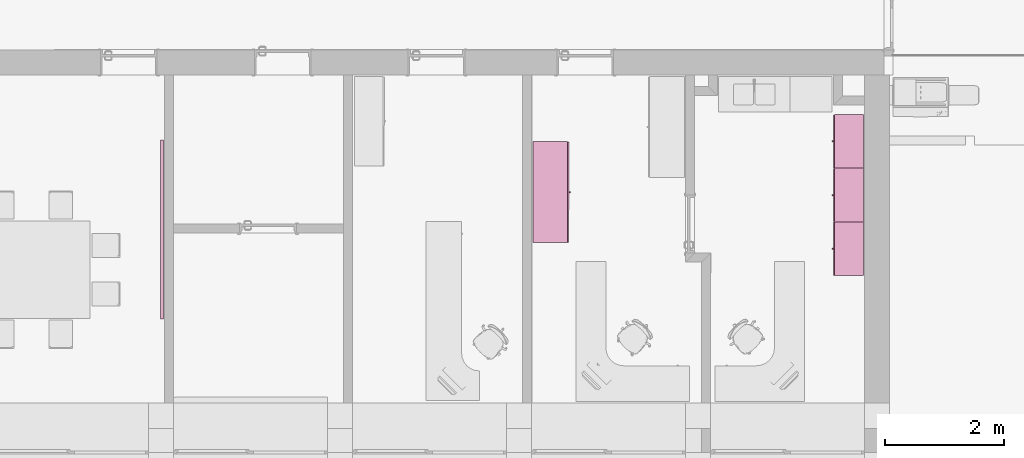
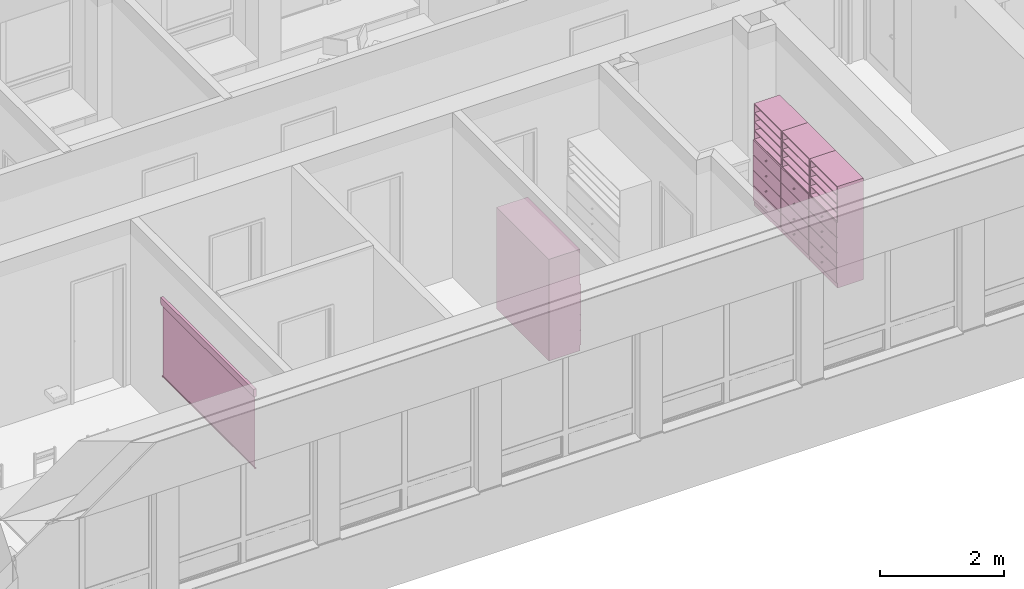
# One storey, part 133 of 194: 5 furnishings.
"""IFC2X3 building model written with IfcOpenShell, lengths in millimetres."""

from ifc_helpers import new_model, entity, si_unit, converted_unit, derived_unit, money_unit, direction, frame, origin_with_axes, place, context, subcontext, project, spatial, open_shell, faceted_brep, surface_model, source, transform, mapped, type_object, element, save


model = new_model("IFC2X3")

# Units and contexts
model_context = context("Model", 3, precision=1e-05, world=origin_with_axes(), true_north=direction((0.0, 1.0)))
body_context = subcontext(model_context, "Body", "Model", "MODEL_VIEW")
ifc_project = project(units=[si_unit("LENGTHUNIT", "METRE", prefix="MILLI"), si_unit("AREAUNIT", "SQUARE_METRE"), si_unit("VOLUMEUNIT", "CUBIC_METRE"), converted_unit("PLANEANGLEUNIT", "DEGREE", entity("IfcPlaneAngleMeasure", 0.0174532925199), si_unit("PLANEANGLEUNIT", "RADIAN"), dimensions=[0, 0, 0, 0, 0, 0, 0]), si_unit("SOLIDANGLEUNIT", "STERADIAN"), money_unit("EUR"), converted_unit("TIMEUNIT", "Year", entity("IfcTimeMeasure", 31556926.0), si_unit("TIMEUNIT", "SECOND"), dimensions=[0, 0, 1, 0, 0, 0, 0]), si_unit("MASSUNIT", "GRAM", prefix="KILO"), si_unit("THERMODYNAMICTEMPERATUREUNIT", "DEGREE_CELSIUS"), si_unit("LUMINOUSINTENSITYUNIT", "LUMEN"), si_unit("ENERGYUNIT", "JOULE", prefix="MEGA"), derived_unit("THERMALCONDUCTANCEUNIT", [(si_unit("POWERUNIT", "WATT"), 1), (si_unit("LENGTHUNIT", "METRE"), -1), (si_unit("THERMODYNAMICTEMPERATUREUNIT", "KELVIN"), -1)]), derived_unit("SPECIFICHEATCAPACITYUNIT", [(si_unit("ENERGYUNIT", "JOULE"), 1), (si_unit("MASSUNIT", "GRAM", prefix="KILO"), -1), (si_unit("THERMODYNAMICTEMPERATUREUNIT", "KELVIN"), -1)]), derived_unit("MASSDENSITYUNIT", [(si_unit("MASSUNIT", "GRAM", prefix="KILO"), 1), (si_unit("VOLUMEUNIT", "CUBIC_METRE"), -1)])], contexts=[model_context])

# Site, building, storey
site_placement = place(None, origin_with_axes())
site = spatial("IfcSite", under=ifc_project, at=site_placement, Name="Site", CompositionType="ELEMENT")
building_placement = place(site_placement, origin_with_axes())
building = spatial("IfcBuilding", under=site, at=building_placement, Name="Building", CompositionType="ELEMENT")
storey_placement = place(building_placement, frame((0.0, 0.0, 3000.0), z_axis=(0.0, 0.0, 1.0), x_axis=(1.0, 0.0, 0.0)))
storey = spatial("IfcBuildingStorey", under=building, at=storey_placement, Name="2 KORRUS", CompositionType="ELEMENT", Elevation=3000.0)

# Furnishings
furnishing_element_type_1 = type_object("IfcFurnishingElementType", Name="Projector Screen 22")
shared_shape_1 = source(origin_with_axes(), body_context, "Body", "SurfaceModel", [
    faceted_brep([(1500.0, 12.5, 1450.0), (1500.0, -31.25, 1450.0), (-1500.0, -31.25, 1450.0), (-1500.0, 12.5, 1450.0), (1500.0, 12.5, 1600.0), (1500.0, -37.5, 1600.0), (1500.0, -37.5, 1475.0), (1500.0, -31.25, 1475.0), (-1500.0, -31.25, 1475.0), (-1500.0, -37.5, 1475.0), (-1500.0, -37.5, 1600.0), (-1500.0, 12.5, 1600.0)], [[[0, 1, 2, 3]], [[0, 4, 5, 6, 7, 1]], [[1, 7, 8, 2]], [[3, 2, 8, 9, 10, 11]], [[4, 0, 3, 11]], [[5, 4, 11, 10]], [[6, 5, 10, 9]], [[7, 6, 9, 8]]]),
    faceted_brep([(-1480.0, 5.17766952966, 25.0), (-1480.0, 12.5, 32.3223304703), (1480.0, 12.5, 32.3223304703), (1480.0, 5.17766952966, 25.0), (-1480.0, -5.17766952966, 25.0), (-1480.0, -12.5, 32.3223304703), (-1480.0, -12.5, 42.6776695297), (-1480.0, -5.17766952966, 50.0), (-1480.0, 5.17766952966, 50.0), (-1480.0, 12.5, 42.6776695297), (1480.0, 12.5, 42.6776695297), (1480.0, 5.17766952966, 50.0), (1480.0, -5.17766952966, 50.0), (1480.0, -12.5, 42.6776695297), (1480.0, -12.5, 32.3223304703), (1480.0, -5.17766952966, 25.0)], [[[0, 1, 2, 3]], [[0, 4, 5, 6, 7, 8, 9, 1]], [[1, 9, 10, 2]], [[3, 2, 10, 11, 12, 13, 14, 15]], [[4, 0, 3, 15]], [[5, 4, 15, 14]], [[6, 5, 14, 13]], [[7, 6, 13, 12]], [[8, 7, 12, 11]], [[9, 8, 11, 10]]]),
    faceted_brep([(-1500.0, 6.00609665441, 23.0), (-1500.0, 14.5, 31.4939033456), (-1480.0, 14.5, 31.4939033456), (-1480.0, 6.00609665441, 23.0), (-1500.0, -6.00609665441, 23.0), (-1500.0, -14.5, 31.4939033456), (-1500.0, -14.5, 43.5060966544), (-1500.0, -6.00609665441, 52.0), (-1500.0, 6.00609665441, 52.0), (-1500.0, 14.5, 43.5060966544), (-1480.0, 14.5, 43.5060966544), (-1480.0, 6.00609665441, 52.0), (-1480.0, -6.00609665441, 52.0), (-1480.0, -14.5, 43.5060966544), (-1480.0, -14.5, 31.4939033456), (-1480.0, -6.00609665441, 23.0)], [[[0, 1, 2, 3]], [[0, 4, 5, 6, 7, 8, 9, 1]], [[1, 9, 10, 2]], [[3, 2, 10, 11, 12, 13, 14, 15]], [[4, 0, 3, 15]], [[5, 4, 15, 14]], [[6, 5, 14, 13]], [[7, 6, 13, 12]], [[8, 7, 12, 11]], [[9, 8, 11, 10]]]),
    faceted_brep([(1480.0, 6.00609665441, 23.0), (1480.0, 14.5, 31.4939033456), (1500.0, 14.5, 31.4939033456), (1500.0, 6.00609665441, 23.0), (1480.0, -6.00609665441, 23.0), (1480.0, -14.5, 31.4939033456), (1480.0, -14.5, 43.5060966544), (1480.0, -6.00609665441, 52.0), (1480.0, 6.00609665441, 52.0), (1480.0, 14.5, 43.5060966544), (1500.0, 14.5, 43.5060966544), (1500.0, 6.00609665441, 52.0), (1500.0, -6.00609665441, 52.0), (1500.0, -14.5, 43.5060966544), (1500.0, -14.5, 31.4939033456), (1500.0, -6.00609665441, 23.0)], [[[0, 1, 2, 3]], [[0, 4, 5, 6, 7, 8, 9, 1]], [[1, 9, 10, 2]], [[3, 2, 10, 11, 12, 13, 14, 15]], [[4, 0, 3, 15]], [[5, 4, 15, 14]], [[6, 5, 14, 13]], [[7, 6, 13, 12]], [[8, 7, 12, 11]], [[9, 8, 11, 10]]]),
    faceted_brep([(-14.0, 1.5, 25.0), (-14.0, 1.5, 14.0), (-14.0, -1.5, 14.0), (-14.0, -1.5, 25.0), (-11.0, 1.5, 25.0), (-11.0, 1.5, 14.0), (-10.6251840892, 1.5, 11.1529905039), (-9.52627944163, 1.5, 8.5), (-7.77817459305, 1.5, 6.22182540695), (-5.5, 1.5, 4.47372055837), (-2.84700949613, 1.5, 3.37481591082), (0.0, 1.5, 3.0), (2.84700949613, 1.5, 3.37481591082), (5.5, 1.5, 4.47372055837), (7.77817459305, 1.5, 6.22182540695), (9.52627944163, 1.5, 8.5), (10.6251840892, 1.5, 11.1529905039), (11.0, 1.5, 14.0), (11.0, 1.5, 25.0), (14.0, 1.5, 25.0), (14.0, 1.5, 14.0), (13.522961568, 1.5, 10.3765333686), (12.124355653, 1.5, 7.0), (9.89949493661, 1.5, 4.10050506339), (7.0, 1.5, 1.87564434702), (3.62346663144, 1.5, 0.477038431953), (0.0, 1.5, 0.0), (-3.62346663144, 1.5, 0.477038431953), (-7.0, 1.5, 1.87564434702), (-9.89949493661, 1.5, 4.10050506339), (-12.124355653, 1.5, 7.0), (-13.522961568, 1.5, 10.3765333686), (-13.522961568, -1.5, 10.3765333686), (-12.124355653, -1.5, 7.0), (-9.89949493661, -1.5, 4.10050506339), (-7.0, -1.5, 1.87564434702), (-3.62346663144, -1.5, 0.477038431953), (0.0, -1.5, 0.0), (3.62346663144, -1.5, 0.477038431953), (7.0, -1.5, 1.87564434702), (9.89949493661, -1.5, 4.10050506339), (12.124355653, -1.5, 7.0), (13.522961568, -1.5, 10.3765333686), (14.0, -1.5, 14.0), (14.0, -1.5, 25.0), (11.0, -1.5, 25.0), (11.0, -1.5, 14.0), (10.6251840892, -1.5, 11.1529905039), (9.52627944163, -1.5, 8.5), (7.77817459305, -1.5, 6.22182540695), (5.5, -1.5, 4.47372055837), (2.84700949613, -1.5, 3.37481591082), (0.0, -1.5, 3.0), (-2.84700949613, -1.5, 3.37481591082), (-5.5, -1.5, 4.47372055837), (-7.77817459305, -1.5, 6.22182540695), (-9.52627944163, -1.5, 8.5), (-10.6251840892, -1.5, 11.1529905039), (-11.0, -1.5, 14.0), (-11.0, -1.5, 25.0)], [[[0, 1, 2, 3]], [[0, 4, 5, 6, 7, 8, 9, 10, 11, 12, 13, 14, 15, 16, 17, 18, 19, 20, 21, 22, 23, 24, 25, 26, 27, 28, 29, 30, 31, 1]], [[1, 31, 32, 2]], [[3, 2, 32, 33, 34, 35, 36, 37, 38, 39, 40, 41, 42, 43, 44, 45, 46, 47, 48, 49, 50, 51, 52, 53, 54, 55, 56, 57, 58, 59]], [[4, 0, 3, 59]], [[5, 4, 59, 58]], [[6, 5, 58, 57]], [[7, 6, 57, 56]], [[8, 7, 56, 55]], [[9, 8, 55, 54]], [[10, 9, 54, 53]], [[11, 10, 53, 52]], [[12, 11, 52, 51]], [[13, 12, 51, 50]], [[14, 13, 50, 49]], [[15, 14, 49, 48]], [[16, 15, 48, 47]], [[17, 16, 47, 46]], [[18, 17, 46, 45]], [[19, 18, 45, 44]], [[20, 19, 44, 43]], [[21, 20, 43, 42]], [[22, 21, 42, 41]], [[23, 22, 41, 40]], [[24, 23, 40, 39]], [[25, 24, 39, 38]], [[26, 25, 38, 37]], [[27, 26, 37, 36]], [[28, 27, 36, 35]], [[29, 28, 35, 34]], [[30, 29, 34, 33]], [[31, 30, 33, 32]]]),
    surface_model("IfcShellBasedSurfaceModel", [(-1480.0, 0.0, 50.0), (-1480.0, 0.0, 1450.0), (1480.0, 0.0, 1450.0), (1480.0, 0.0, 50.0)], [open_shell([[[0, 1, 2, 3]]])]),
])
furnishing_1_placement = place(storey_placement, frame((48975.2129496, 38091.1321798, 800.0), z_axis=(0.0, 0.0, 1.0), x_axis=(0.0, -1.0, 0.0)))
element("IfcFurnishingElement", 1, at=furnishing_1_placement, inside=storey, type_object=furnishing_element_type_1, Name="FU - 003", context=body_context, shape_type="MappedRepresentation", body=[
    mapped(shared_shape_1, transform((0.0, 0.0, 0.0))),
])
furnishing_element_type_2 = type_object("IfcFurnishingElementType", Name="Model Element 52")
shared_shape_2 = source(origin_with_axes(), body_context, "Body", "Brep", [
    faceted_brep([(1693.4828307, 19.0, 0.0), (0.0, 19.0, 0.0), (0.0, 599.467164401, 0.0), (1693.4828307, 599.467164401, 0.0), (1693.4828307, 19.0, 100.0), (0.0, 19.0, 100.0), (0.0, 599.467164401, 100.0), (1693.4828307, 599.467164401, 100.0)], [[[0, 1, 2, 3]], [[1, 0, 4, 5]], [[2, 1, 5, 6]], [[3, 2, 6, 7]], [[0, 3, 7, 4]], [[5, 4, 7, 6]]]),
    faceted_brep([(19.0, 599.467164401, 119.0), (19.0, 580.467164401, 119.0), (19.0, 580.467164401, 1981.0), (19.0, 599.467164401, 1981.0), (1674.4828307, 599.467164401, 119.0), (1674.4828307, 580.467164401, 119.0), (1674.4828307, 580.467164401, 1981.0), (1674.4828307, 599.467164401, 1981.0)], [[[0, 1, 2, 3]], [[0, 4, 5, 1]], [[1, 5, 6, 2]], [[3, 2, 6, 7]], [[4, 0, 3, 7]], [[5, 4, 7, 6]]]),
    faceted_brep([(1693.4828307, 19.0, 100.0), (1674.4828307, 19.0, 100.0), (1674.4828307, 599.467164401, 100.0), (1693.4828307, 599.467164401, 100.0), (1693.4828307, 19.0, 2000.0), (1674.4828307, 19.0, 2000.0), (1674.4828307, 599.467164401, 2000.0), (1693.4828307, 599.467164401, 2000.0)], [[[0, 1, 2, 3]], [[1, 0, 4, 5]], [[2, 1, 5, 6]], [[3, 2, 6, 7]], [[0, 3, 7, 4]], [[5, 4, 7, 6]]]),
    faceted_brep([(19.0, 19.0, 100.0), (0.0, 19.0, 100.0), (0.0, 599.467164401, 100.0), (19.0, 599.467164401, 100.0), (19.0, 19.0, 2000.0), (0.0, 19.0, 2000.0), (0.0, 599.467164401, 2000.0), (19.0, 599.467164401, 2000.0)], [[[0, 1, 2, 3]], [[1, 0, 4, 5]], [[2, 1, 5, 6]], [[3, 2, 6, 7]], [[0, 3, 7, 4]], [[5, 4, 7, 6]]]),
    faceted_brep([(1674.4828307, 19.0, 100.0), (19.0, 19.0, 100.0), (19.0, 599.467164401, 100.0), (1674.4828307, 599.467164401, 100.0), (1674.4828307, 19.0, 119.0), (19.0, 19.0, 119.0), (19.0, 599.467164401, 119.0), (1674.4828307, 599.467164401, 119.0)], [[[0, 1, 2, 3]], [[1, 0, 4, 5]], [[2, 1, 5, 6]], [[3, 2, 6, 7]], [[0, 3, 7, 4]], [[5, 4, 7, 6]]]),
    faceted_brep([(1674.4828307, 19.0, 1981.0), (19.0, 19.0, 1981.0), (19.0, 599.467164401, 1981.0), (1674.4828307, 599.467164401, 1981.0), (1674.4828307, 19.0, 2000.0), (19.0, 19.0, 2000.0), (19.0, 599.467164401, 2000.0), (1674.4828307, 599.467164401, 2000.0)], [[[0, 1, 2, 3]], [[1, 0, 4, 5]], [[2, 1, 5, 6]], [[3, 2, 6, 7]], [[0, 3, 7, 4]], [[5, 4, 7, 6]]]),
    faceted_brep([(5.0, 19.0, 105.0), (1688.4828307, 19.0, 105.0), (1688.4828307, 0.0, 105.0), (5.0, 0.0, 105.0), (5.0, 19.0, 395.0), (1688.4828307, 19.0, 395.0), (1688.4828307, 0.0, 395.0), (5.0, 0.0, 395.0)], [[[0, 1, 2, 3]], [[0, 4, 5, 1]], [[1, 5, 6, 2]], [[3, 2, 6, 7]], [[4, 0, 3, 7]], [[5, 4, 7, 6]]]),
    faceted_brep([(857.133720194, 0.0, 244.0), (852.741415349, 0.0, 239.607695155), (846.741415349, 0.0, 238.0), (840.741415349, 0.0, 239.607695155), (836.349110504, 0.0, 244.0), (834.741415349, 0.0, 250.0), (836.349110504, 0.0, 256.0), (840.741415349, 0.0, 260.392304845), (846.741415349, 0.0, 262.0), (852.741415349, 0.0, 260.392304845), (857.133720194, 0.0, 256.0), (858.741415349, 0.0, 250.0), (857.133720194, -25.0, 244.0), (852.741415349, -25.0, 239.607695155), (846.741415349, -25.0, 238.0), (840.741415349, -25.0, 239.607695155), (836.349110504, -25.0, 244.0), (834.741415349, -25.0, 250.0), (836.349110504, -25.0, 256.0), (840.741415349, -25.0, 260.392304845), (846.741415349, -25.0, 262.0), (852.741415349, -25.0, 260.392304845), (857.133720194, -25.0, 256.0), (858.741415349, -25.0, 250.0)], [[[0, 1, 2, 3, 4, 5, 6, 7, 8, 9, 10, 11]], [[1, 0, 12, 13]], [[2, 1, 13, 14]], [[3, 2, 14, 15]], [[4, 3, 15, 16]], [[5, 4, 16, 17]], [[6, 5, 17, 18]], [[7, 6, 18, 19]], [[8, 7, 19, 20]], [[9, 8, 20, 21]], [[10, 9, 21, 22]], [[11, 10, 22, 23]], [[0, 11, 23, 12]], [[12, 23, 22, 21, 20, 19, 18, 17, 16, 15, 14, 13]]]),
    faceted_brep([(5.0, 19.0, 405.0), (1688.4828307, 19.0, 405.0), (1688.4828307, 0.0, 405.0), (5.0, 0.0, 405.0), (5.0, 19.0, 695.0), (1688.4828307, 19.0, 695.0), (1688.4828307, 0.0, 695.0), (5.0, 0.0, 695.0)], [[[0, 1, 2, 3]], [[0, 4, 5, 1]], [[1, 5, 6, 2]], [[3, 2, 6, 7]], [[4, 0, 3, 7]], [[5, 4, 7, 6]]]),
    faceted_brep([(857.133720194, 0.0, 544.0), (852.741415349, 0.0, 539.607695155), (846.741415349, 0.0, 538.0), (840.741415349, 0.0, 539.607695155), (836.349110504, 0.0, 544.0), (834.741415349, 0.0, 550.0), (836.349110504, 0.0, 556.0), (840.741415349, 0.0, 560.392304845), (846.741415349, 0.0, 562.0), (852.741415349, 0.0, 560.392304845), (857.133720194, 0.0, 556.0), (858.741415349, 0.0, 550.0), (857.133720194, -25.0, 544.0), (852.741415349, -25.0, 539.607695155), (846.741415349, -25.0, 538.0), (840.741415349, -25.0, 539.607695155), (836.349110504, -25.0, 544.0), (834.741415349, -25.0, 550.0), (836.349110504, -25.0, 556.0), (840.741415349, -25.0, 560.392304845), (846.741415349, -25.0, 562.0), (852.741415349, -25.0, 560.392304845), (857.133720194, -25.0, 556.0), (858.741415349, -25.0, 550.0)], [[[0, 1, 2, 3, 4, 5, 6, 7, 8, 9, 10, 11]], [[1, 0, 12, 13]], [[2, 1, 13, 14]], [[3, 2, 14, 15]], [[4, 3, 15, 16]], [[5, 4, 16, 17]], [[6, 5, 17, 18]], [[7, 6, 18, 19]], [[8, 7, 19, 20]], [[9, 8, 20, 21]], [[10, 9, 21, 22]], [[11, 10, 22, 23]], [[0, 11, 23, 12]], [[12, 23, 22, 21, 20, 19, 18, 17, 16, 15, 14, 13]]]),
    faceted_brep([(5.0, 19.0, 705.0), (1688.4828307, 19.0, 705.0), (1688.4828307, 0.0, 705.0), (5.0, 0.0, 705.0), (5.0, 19.0, 995.0), (1688.4828307, 19.0, 995.0), (1688.4828307, 0.0, 995.0), (5.0, 0.0, 995.0)], [[[0, 1, 2, 3]], [[0, 4, 5, 1]], [[1, 5, 6, 2]], [[3, 2, 6, 7]], [[4, 0, 3, 7]], [[5, 4, 7, 6]]]),
    faceted_brep([(857.133720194, 0.0, 844.0), (852.741415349, 0.0, 839.607695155), (846.741415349, 0.0, 838.0), (840.741415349, 0.0, 839.607695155), (836.349110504, 0.0, 844.0), (834.741415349, 0.0, 850.0), (836.349110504, 0.0, 856.0), (840.741415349, 0.0, 860.392304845), (846.741415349, 0.0, 862.0), (852.741415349, 0.0, 860.392304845), (857.133720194, 0.0, 856.0), (858.741415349, 0.0, 850.0), (857.133720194, -25.0, 844.0), (852.741415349, -25.0, 839.607695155), (846.741415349, -25.0, 838.0), (840.741415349, -25.0, 839.607695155), (836.349110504, -25.0, 844.0), (834.741415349, -25.0, 850.0), (836.349110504, -25.0, 856.0), (840.741415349, -25.0, 860.392304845), (846.741415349, -25.0, 862.0), (852.741415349, -25.0, 860.392304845), (857.133720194, -25.0, 856.0), (858.741415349, -25.0, 850.0)], [[[0, 1, 2, 3, 4, 5, 6, 7, 8, 9, 10, 11]], [[1, 0, 12, 13]], [[2, 1, 13, 14]], [[3, 2, 14, 15]], [[4, 3, 15, 16]], [[5, 4, 16, 17]], [[6, 5, 17, 18]], [[7, 6, 18, 19]], [[8, 7, 19, 20]], [[9, 8, 20, 21]], [[10, 9, 21, 22]], [[11, 10, 22, 23]], [[0, 11, 23, 12]], [[12, 23, 22, 21, 20, 19, 18, 17, 16, 15, 14, 13]]]),
    faceted_brep([(5.0, 19.0, 1005.0), (1688.4828307, 19.0, 1005.0), (1688.4828307, 0.0, 1005.0), (5.0, 0.0, 1005.0), (5.0, 19.0, 1295.0), (1688.4828307, 19.0, 1295.0), (1688.4828307, 0.0, 1295.0), (5.0, 0.0, 1295.0)], [[[0, 1, 2, 3]], [[0, 4, 5, 1]], [[1, 5, 6, 2]], [[3, 2, 6, 7]], [[4, 0, 3, 7]], [[5, 4, 7, 6]]]),
    faceted_brep([(857.133720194, 0.0, 1144.0), (852.741415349, 0.0, 1139.60769515), (846.741415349, 0.0, 1138.0), (840.741415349, 0.0, 1139.60769515), (836.349110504, 0.0, 1144.0), (834.741415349, 0.0, 1150.0), (836.349110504, 0.0, 1156.0), (840.741415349, 0.0, 1160.39230485), (846.741415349, 0.0, 1162.0), (852.741415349, 0.0, 1160.39230485), (857.133720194, 0.0, 1156.0), (858.741415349, 0.0, 1150.0), (857.133720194, -25.0, 1144.0), (852.741415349, -25.0, 1139.60769515), (846.741415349, -25.0, 1138.0), (840.741415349, -25.0, 1139.60769515), (836.349110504, -25.0, 1144.0), (834.741415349, -25.0, 1150.0), (836.349110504, -25.0, 1156.0), (840.741415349, -25.0, 1160.39230485), (846.741415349, -25.0, 1162.0), (852.741415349, -25.0, 1160.39230485), (857.133720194, -25.0, 1156.0), (858.741415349, -25.0, 1150.0)], [[[0, 1, 2, 3, 4, 5, 6, 7, 8, 9, 10, 11]], [[1, 0, 12, 13]], [[2, 1, 13, 14]], [[3, 2, 14, 15]], [[4, 3, 15, 16]], [[5, 4, 16, 17]], [[6, 5, 17, 18]], [[7, 6, 18, 19]], [[8, 7, 19, 20]], [[9, 8, 20, 21]], [[10, 9, 21, 22]], [[11, 10, 22, 23]], [[0, 11, 23, 12]], [[12, 23, 22, 21, 20, 19, 18, 17, 16, 15, 14, 13]]]),
    faceted_brep([(19.0, 19.0, 390.5), (1674.4828307, 19.0, 390.5), (1674.4828307, 19.0, 409.5), (19.0, 19.0, 409.5), (19.0, 580.467164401, 390.5), (1674.4828307, 580.467164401, 390.5), (1674.4828307, 580.467164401, 409.5), (19.0, 580.467164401, 409.5)], [[[0, 1, 2, 3]], [[0, 4, 5, 1]], [[1, 5, 6, 2]], [[3, 2, 6, 7]], [[4, 0, 3, 7]], [[5, 4, 7, 6]]]),
    faceted_brep([(19.0, 19.0, 690.5), (1674.4828307, 19.0, 690.5), (1674.4828307, 19.0, 709.5), (19.0, 19.0, 709.5), (19.0, 580.467164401, 690.5), (1674.4828307, 580.467164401, 690.5), (1674.4828307, 580.467164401, 709.5), (19.0, 580.467164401, 709.5)], [[[0, 1, 2, 3]], [[0, 4, 5, 1]], [[1, 5, 6, 2]], [[3, 2, 6, 7]], [[4, 0, 3, 7]], [[5, 4, 7, 6]]]),
    faceted_brep([(19.0, 19.0, 990.5), (1674.4828307, 19.0, 990.5), (1674.4828307, 19.0, 1009.5), (19.0, 19.0, 1009.5), (19.0, 580.467164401, 990.5), (1674.4828307, 580.467164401, 990.5), (1674.4828307, 580.467164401, 1009.5), (19.0, 580.467164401, 1009.5)], [[[0, 1, 2, 3]], [[0, 4, 5, 1]], [[1, 5, 6, 2]], [[3, 2, 6, 7]], [[4, 0, 3, 7]], [[5, 4, 7, 6]]]),
    faceted_brep([(19.0, 19.0, 1290.5), (1674.4828307, 19.0, 1290.5), (1674.4828307, 19.0, 1309.5), (19.0, 19.0, 1309.5), (19.0, 580.467164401, 1290.5), (1674.4828307, 580.467164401, 1290.5), (1674.4828307, 580.467164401, 1309.5), (19.0, 580.467164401, 1309.5)], [[[0, 1, 2, 3]], [[0, 4, 5, 1]], [[1, 5, 6, 2]], [[3, 2, 6, 7]], [[4, 0, 3, 7]], [[5, 4, 7, 6]]]),
    faceted_brep([(1674.4828307, 19.0, 1463.125), (19.0, 19.0, 1463.125), (19.0, 580.467164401, 1463.125), (1674.4828307, 580.467164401, 1463.125), (1674.4828307, 19.0, 1482.125), (19.0, 19.0, 1482.125), (19.0, 580.467164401, 1482.125), (1674.4828307, 580.467164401, 1482.125)], [[[0, 1, 2, 3]], [[1, 0, 4, 5]], [[2, 1, 5, 6]], [[3, 2, 6, 7]], [[0, 3, 7, 4]], [[5, 4, 7, 6]]]),
    faceted_brep([(1674.4828307, 19.0, 1635.75), (19.0, 19.0, 1635.75), (19.0, 580.467164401, 1635.75), (1674.4828307, 580.467164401, 1635.75), (1674.4828307, 19.0, 1654.75), (19.0, 19.0, 1654.75), (19.0, 580.467164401, 1654.75), (1674.4828307, 580.467164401, 1654.75)], [[[0, 1, 2, 3]], [[1, 0, 4, 5]], [[2, 1, 5, 6]], [[3, 2, 6, 7]], [[0, 3, 7, 4]], [[5, 4, 7, 6]]]),
    faceted_brep([(1674.4828307, 19.0, 1808.375), (19.0, 19.0, 1808.375), (19.0, 580.467164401, 1808.375), (1674.4828307, 580.467164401, 1808.375), (1674.4828307, 19.0, 1827.375), (19.0, 19.0, 1827.375), (19.0, 580.467164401, 1827.375), (1674.4828307, 580.467164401, 1827.375)], [[[0, 1, 2, 3]], [[1, 0, 4, 5]], [[2, 1, 5, 6]], [[3, 2, 6, 7]], [[0, 3, 7, 4]], [[5, 4, 7, 6]]]),
])
furnishing_2_placement = place(storey_placement, frame((55777.0733043, 37872.3813322, 0.0), z_axis=(0.0, 0.0, 1.0), x_axis=(0.00064265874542, 0.999999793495, 0.0)))
element("IfcFurnishingElement", 2, at=furnishing_2_placement, inside=storey, type_object=furnishing_element_type_2, Name="FU - 001", context=body_context, shape_type="MappedRepresentation", body=[
    mapped(shared_shape_2, transform((0.0, 0.0, 0.0))),
])
furnishing_element_type_3 = type_object("IfcFurnishingElementType", Name="Model Element 8")
shared_shape_3 = source(origin_with_axes(), body_context, "Body", "Brep", [
    faceted_brep([(900.0, 19.0, 0.0), (0.0, 19.0, 0.0), (0.0, 500.697707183, 0.0), (900.0, 500.697707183, 0.0), (900.0, 19.0, 100.0), (0.0, 19.0, 100.0), (0.0, 500.697707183, 100.0), (900.0, 500.697707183, 100.0)], [[[0, 1, 2, 3]], [[1, 0, 4, 5]], [[2, 1, 5, 6]], [[3, 2, 6, 7]], [[0, 3, 7, 4]], [[5, 4, 7, 6]]]),
    faceted_brep([(19.0, 500.697707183, 119.0), (19.0, 481.697707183, 119.0), (19.0, 481.697707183, 1981.0), (19.0, 500.697707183, 1981.0), (881.0, 500.697707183, 119.0), (881.0, 481.697707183, 119.0), (881.0, 481.697707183, 1981.0), (881.0, 500.697707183, 1981.0)], [[[0, 1, 2, 3]], [[0, 4, 5, 1]], [[1, 5, 6, 2]], [[3, 2, 6, 7]], [[4, 0, 3, 7]], [[5, 4, 7, 6]]]),
    faceted_brep([(900.0, 19.0, 100.0), (881.0, 19.0, 100.0), (881.0, 500.697707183, 100.0), (900.0, 500.697707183, 100.0), (900.0, 19.0, 2000.0), (881.0, 19.0, 2000.0), (881.0, 500.697707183, 2000.0), (900.0, 500.697707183, 2000.0)], [[[0, 1, 2, 3]], [[1, 0, 4, 5]], [[2, 1, 5, 6]], [[3, 2, 6, 7]], [[0, 3, 7, 4]], [[5, 4, 7, 6]]]),
    faceted_brep([(19.0, 19.0, 100.0), (0.0, 19.0, 100.0), (0.0, 500.697707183, 100.0), (19.0, 500.697707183, 100.0), (19.0, 19.0, 2000.0), (0.0, 19.0, 2000.0), (0.0, 500.697707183, 2000.0), (19.0, 500.697707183, 2000.0)], [[[0, 1, 2, 3]], [[1, 0, 4, 5]], [[2, 1, 5, 6]], [[3, 2, 6, 7]], [[0, 3, 7, 4]], [[5, 4, 7, 6]]]),
    faceted_brep([(881.0, 19.0, 100.0), (19.0, 19.0, 100.0), (19.0, 500.697707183, 100.0), (881.0, 500.697707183, 100.0), (881.0, 19.0, 119.0), (19.0, 19.0, 119.0), (19.0, 500.697707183, 119.0), (881.0, 500.697707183, 119.0)], [[[0, 1, 2, 3]], [[1, 0, 4, 5]], [[2, 1, 5, 6]], [[3, 2, 6, 7]], [[0, 3, 7, 4]], [[5, 4, 7, 6]]]),
    faceted_brep([(881.0, 19.0, 1981.0), (19.0, 19.0, 1981.0), (19.0, 500.697707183, 1981.0), (881.0, 500.697707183, 1981.0), (881.0, 19.0, 2000.0), (19.0, 19.0, 2000.0), (19.0, 500.697707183, 2000.0), (881.0, 500.697707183, 2000.0)], [[[0, 1, 2, 3]], [[1, 0, 4, 5]], [[2, 1, 5, 6]], [[3, 2, 6, 7]], [[0, 3, 7, 4]], [[5, 4, 7, 6]]]),
    faceted_brep([(5.0, 19.0, 105.0), (895.0, 19.0, 105.0), (895.0, 0.0, 105.0), (5.0, 0.0, 105.0), (5.0, 19.0, 395.0), (895.0, 19.0, 395.0), (895.0, 0.0, 395.0), (5.0, 0.0, 395.0)], [[[0, 1, 2, 3]], [[0, 4, 5, 1]], [[1, 5, 6, 2]], [[3, 2, 6, 7]], [[4, 0, 3, 7]], [[5, 4, 7, 6]]]),
    faceted_brep([(460.392304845, 0.0, 244.0), (456.0, 0.0, 239.607695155), (450.0, 0.0, 238.0), (444.0, 0.0, 239.607695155), (439.607695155, 0.0, 244.0), (438.0, 0.0, 250.0), (439.607695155, 0.0, 256.0), (444.0, 0.0, 260.392304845), (450.0, 0.0, 262.0), (456.0, 0.0, 260.392304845), (460.392304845, 0.0, 256.0), (462.0, 0.0, 250.0), (460.392304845, -25.0, 244.0), (456.0, -25.0, 239.607695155), (450.0, -25.0, 238.0), (444.0, -25.0, 239.607695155), (439.607695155, -25.0, 244.0), (438.0, -25.0, 250.0), (439.607695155, -25.0, 256.0), (444.0, -25.0, 260.392304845), (450.0, -25.0, 262.0), (456.0, -25.0, 260.392304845), (460.392304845, -25.0, 256.0), (462.0, -25.0, 250.0)], [[[0, 1, 2, 3, 4, 5, 6, 7, 8, 9, 10, 11]], [[1, 0, 12, 13]], [[2, 1, 13, 14]], [[3, 2, 14, 15]], [[4, 3, 15, 16]], [[5, 4, 16, 17]], [[6, 5, 17, 18]], [[7, 6, 18, 19]], [[8, 7, 19, 20]], [[9, 8, 20, 21]], [[10, 9, 21, 22]], [[11, 10, 22, 23]], [[0, 11, 23, 12]], [[12, 23, 22, 21, 20, 19, 18, 17, 16, 15, 14, 13]]]),
    faceted_brep([(5.0, 19.0, 405.0), (895.0, 19.0, 405.0), (895.0, 0.0, 405.0), (5.0, 0.0, 405.0), (5.0, 19.0, 695.0), (895.0, 19.0, 695.0), (895.0, 0.0, 695.0), (5.0, 0.0, 695.0)], [[[0, 1, 2, 3]], [[0, 4, 5, 1]], [[1, 5, 6, 2]], [[3, 2, 6, 7]], [[4, 0, 3, 7]], [[5, 4, 7, 6]]]),
    faceted_brep([(460.392304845, 0.0, 544.0), (456.0, 0.0, 539.607695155), (450.0, 0.0, 538.0), (444.0, 0.0, 539.607695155), (439.607695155, 0.0, 544.0), (438.0, 0.0, 550.0), (439.607695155, 0.0, 556.0), (444.0, 0.0, 560.392304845), (450.0, 0.0, 562.0), (456.0, 0.0, 560.392304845), (460.392304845, 0.0, 556.0), (462.0, 0.0, 550.0), (460.392304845, -25.0, 544.0), (456.0, -25.0, 539.607695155), (450.0, -25.0, 538.0), (444.0, -25.0, 539.607695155), (439.607695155, -25.0, 544.0), (438.0, -25.0, 550.0), (439.607695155, -25.0, 556.0), (444.0, -25.0, 560.392304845), (450.0, -25.0, 562.0), (456.0, -25.0, 560.392304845), (460.392304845, -25.0, 556.0), (462.0, -25.0, 550.0)], [[[0, 1, 2, 3, 4, 5, 6, 7, 8, 9, 10, 11]], [[1, 0, 12, 13]], [[2, 1, 13, 14]], [[3, 2, 14, 15]], [[4, 3, 15, 16]], [[5, 4, 16, 17]], [[6, 5, 17, 18]], [[7, 6, 18, 19]], [[8, 7, 19, 20]], [[9, 8, 20, 21]], [[10, 9, 21, 22]], [[11, 10, 22, 23]], [[0, 11, 23, 12]], [[12, 23, 22, 21, 20, 19, 18, 17, 16, 15, 14, 13]]]),
    faceted_brep([(5.0, 19.0, 705.0), (895.0, 19.0, 705.0), (895.0, 0.0, 705.0), (5.0, 0.0, 705.0), (5.0, 19.0, 995.0), (895.0, 19.0, 995.0), (895.0, 0.0, 995.0), (5.0, 0.0, 995.0)], [[[0, 1, 2, 3]], [[0, 4, 5, 1]], [[1, 5, 6, 2]], [[3, 2, 6, 7]], [[4, 0, 3, 7]], [[5, 4, 7, 6]]]),
    faceted_brep([(460.392304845, 0.0, 844.0), (456.0, 0.0, 839.607695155), (450.0, 0.0, 838.0), (444.0, 0.0, 839.607695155), (439.607695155, 0.0, 844.0), (438.0, 0.0, 850.0), (439.607695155, 0.0, 856.0), (444.0, 0.0, 860.392304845), (450.0, 0.0, 862.0), (456.0, 0.0, 860.392304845), (460.392304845, 0.0, 856.0), (462.0, 0.0, 850.0), (460.392304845, -25.0, 844.0), (456.0, -25.0, 839.607695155), (450.0, -25.0, 838.0), (444.0, -25.0, 839.607695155), (439.607695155, -25.0, 844.0), (438.0, -25.0, 850.0), (439.607695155, -25.0, 856.0), (444.0, -25.0, 860.392304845), (450.0, -25.0, 862.0), (456.0, -25.0, 860.392304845), (460.392304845, -25.0, 856.0), (462.0, -25.0, 850.0)], [[[0, 1, 2, 3, 4, 5, 6, 7, 8, 9, 10, 11]], [[1, 0, 12, 13]], [[2, 1, 13, 14]], [[3, 2, 14, 15]], [[4, 3, 15, 16]], [[5, 4, 16, 17]], [[6, 5, 17, 18]], [[7, 6, 18, 19]], [[8, 7, 19, 20]], [[9, 8, 20, 21]], [[10, 9, 21, 22]], [[11, 10, 22, 23]], [[0, 11, 23, 12]], [[12, 23, 22, 21, 20, 19, 18, 17, 16, 15, 14, 13]]]),
    faceted_brep([(5.0, 19.0, 1005.0), (895.0, 19.0, 1005.0), (895.0, 0.0, 1005.0), (5.0, 0.0, 1005.0), (5.0, 19.0, 1295.0), (895.0, 19.0, 1295.0), (895.0, 0.0, 1295.0), (5.0, 0.0, 1295.0)], [[[0, 1, 2, 3]], [[0, 4, 5, 1]], [[1, 5, 6, 2]], [[3, 2, 6, 7]], [[4, 0, 3, 7]], [[5, 4, 7, 6]]]),
    faceted_brep([(460.392304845, 0.0, 1144.0), (456.0, 0.0, 1139.60769515), (450.0, 0.0, 1138.0), (444.0, 0.0, 1139.60769515), (439.607695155, 0.0, 1144.0), (438.0, 0.0, 1150.0), (439.607695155, 0.0, 1156.0), (444.0, 0.0, 1160.39230485), (450.0, 0.0, 1162.0), (456.0, 0.0, 1160.39230485), (460.392304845, 0.0, 1156.0), (462.0, 0.0, 1150.0), (460.392304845, -25.0, 1144.0), (456.0, -25.0, 1139.60769515), (450.0, -25.0, 1138.0), (444.0, -25.0, 1139.60769515), (439.607695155, -25.0, 1144.0), (438.0, -25.0, 1150.0), (439.607695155, -25.0, 1156.0), (444.0, -25.0, 1160.39230485), (450.0, -25.0, 1162.0), (456.0, -25.0, 1160.39230485), (460.392304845, -25.0, 1156.0), (462.0, -25.0, 1150.0)], [[[0, 1, 2, 3, 4, 5, 6, 7, 8, 9, 10, 11]], [[1, 0, 12, 13]], [[2, 1, 13, 14]], [[3, 2, 14, 15]], [[4, 3, 15, 16]], [[5, 4, 16, 17]], [[6, 5, 17, 18]], [[7, 6, 18, 19]], [[8, 7, 19, 20]], [[9, 8, 20, 21]], [[10, 9, 21, 22]], [[11, 10, 22, 23]], [[0, 11, 23, 12]], [[12, 23, 22, 21, 20, 19, 18, 17, 16, 15, 14, 13]]]),
    faceted_brep([(19.0, 19.0, 390.5), (881.0, 19.0, 390.5), (881.0, 19.0, 409.5), (19.0, 19.0, 409.5), (19.0, 481.697707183, 390.5), (881.0, 481.697707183, 390.5), (881.0, 481.697707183, 409.5), (19.0, 481.697707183, 409.5)], [[[0, 1, 2, 3]], [[0, 4, 5, 1]], [[1, 5, 6, 2]], [[3, 2, 6, 7]], [[4, 0, 3, 7]], [[5, 4, 7, 6]]]),
    faceted_brep([(19.0, 19.0, 690.5), (881.0, 19.0, 690.5), (881.0, 19.0, 709.5), (19.0, 19.0, 709.5), (19.0, 481.697707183, 690.5), (881.0, 481.697707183, 690.5), (881.0, 481.697707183, 709.5), (19.0, 481.697707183, 709.5)], [[[0, 1, 2, 3]], [[0, 4, 5, 1]], [[1, 5, 6, 2]], [[3, 2, 6, 7]], [[4, 0, 3, 7]], [[5, 4, 7, 6]]]),
    faceted_brep([(19.0, 19.0, 990.5), (881.0, 19.0, 990.5), (881.0, 19.0, 1009.5), (19.0, 19.0, 1009.5), (19.0, 481.697707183, 990.5), (881.0, 481.697707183, 990.5), (881.0, 481.697707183, 1009.5), (19.0, 481.697707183, 1009.5)], [[[0, 1, 2, 3]], [[0, 4, 5, 1]], [[1, 5, 6, 2]], [[3, 2, 6, 7]], [[4, 0, 3, 7]], [[5, 4, 7, 6]]]),
    faceted_brep([(19.0, 19.0, 1290.5), (881.0, 19.0, 1290.5), (881.0, 19.0, 1309.5), (19.0, 19.0, 1309.5), (19.0, 481.697707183, 1290.5), (881.0, 481.697707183, 1290.5), (881.0, 481.697707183, 1309.5), (19.0, 481.697707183, 1309.5)], [[[0, 1, 2, 3]], [[0, 4, 5, 1]], [[1, 5, 6, 2]], [[3, 2, 6, 7]], [[4, 0, 3, 7]], [[5, 4, 7, 6]]]),
    faceted_brep([(881.0, 19.0, 1463.125), (19.0, 19.0, 1463.125), (19.0, 481.697707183, 1463.125), (881.0, 481.697707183, 1463.125), (881.0, 19.0, 1482.125), (19.0, 19.0, 1482.125), (19.0, 481.697707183, 1482.125), (881.0, 481.697707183, 1482.125)], [[[0, 1, 2, 3]], [[1, 0, 4, 5]], [[2, 1, 5, 6]], [[3, 2, 6, 7]], [[0, 3, 7, 4]], [[5, 4, 7, 6]]]),
    faceted_brep([(881.0, 19.0, 1635.75), (19.0, 19.0, 1635.75), (19.0, 481.697707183, 1635.75), (881.0, 481.697707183, 1635.75), (881.0, 19.0, 1654.75), (19.0, 19.0, 1654.75), (19.0, 481.697707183, 1654.75), (881.0, 481.697707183, 1654.75)], [[[0, 1, 2, 3]], [[1, 0, 4, 5]], [[2, 1, 5, 6]], [[3, 2, 6, 7]], [[0, 3, 7, 4]], [[5, 4, 7, 6]]]),
    faceted_brep([(881.0, 19.0, 1808.375), (19.0, 19.0, 1808.375), (19.0, 481.697707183, 1808.375), (881.0, 481.697707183, 1808.375), (881.0, 19.0, 1827.375), (19.0, 19.0, 1827.375), (19.0, 481.697707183, 1827.375), (881.0, 481.697707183, 1827.375)], [[[0, 1, 2, 3]], [[1, 0, 4, 5]], [[2, 1, 5, 6]], [[3, 2, 6, 7]], [[0, 3, 7, 4]], [[5, 4, 7, 6]]]),
])
for number, where, z_axis, x_axis, name in (
    (3, (60214.5657581, 40019.6544989, 0.0), (0.0, 0.0, 1.0), (-0.000642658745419, -0.999999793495, 0.0), "FU - 001"),
    (4, (60213.9873652, 39119.6546848, 0.0), (0.0, 0.0, 1.0), (-0.000642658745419, -0.999999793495, 0.0), "FU - 001"),
    (5, (60213.4089724, 38219.6548707, 0.0), (0.0, 0.0, 1.0), (-0.000642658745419, -0.999999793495, 0.0), "FU - 001"),
):
    element("IfcFurnishingElement", number, at=place(storey_placement, frame(where, z_axis=z_axis, x_axis=x_axis)), inside=storey, type_object=furnishing_element_type_3, Name=name, context=body_context, shape_type="MappedRepresentation", body=[
        mapped(shared_shape_3, transform((0.0, 0.0, 0.0))),
    ])

save(model, "model.ifc")
